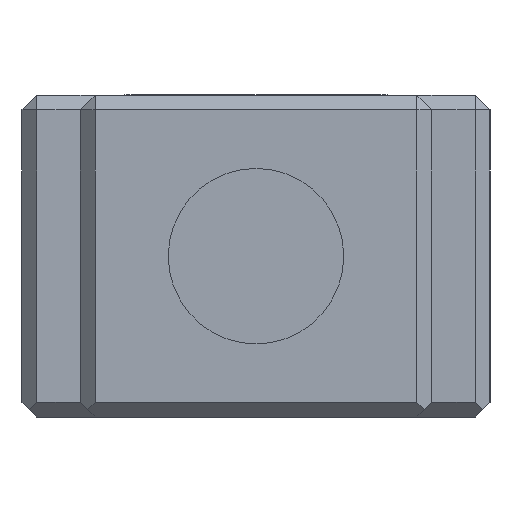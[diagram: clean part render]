
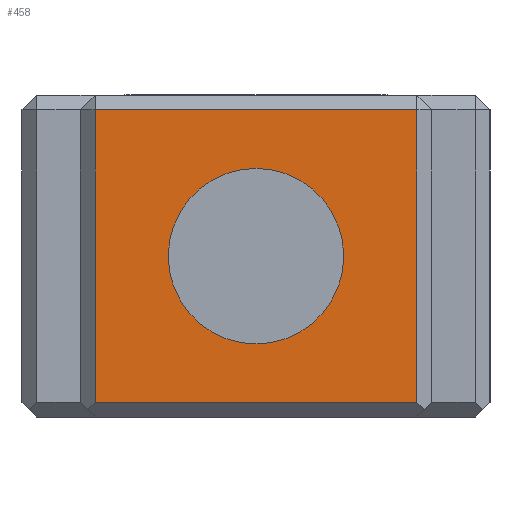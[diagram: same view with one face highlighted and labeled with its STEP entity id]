
A CAD part, left-side view. The second image highlights one B-rep face of the part: STEP entity #458.
In plain terms, the highlighted planar face has unit normal (-1, 0, 0).
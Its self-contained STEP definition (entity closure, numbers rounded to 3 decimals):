
#147 = CARTESIAN_POINT ( 'NONE',  ( -8., 0., 0. ) ) ;
#148 = DIRECTION ( 'NONE',  ( -1., 0., 0. ) ) ;
#149 = DIRECTION ( 'NONE',  ( 0., 0., 1. ) ) ;
#252 = EDGE_CURVE ( 'NONE', #1069, #1835, #806, .T. ) ;
#298 = EDGE_CURVE ( 'NONE', #1835, #1069, #889, .T. ) ;
#299 = EDGE_CURVE ( 'NONE', #1822, #1845, #885, .T. ) ;
#300 = EDGE_CURVE ( 'NONE', #1845, #1858, #892, .T. ) ;
#301 = EDGE_CURVE ( 'NONE', #1858, #1846, #894, .T. ) ;
#302 = EDGE_CURVE ( 'NONE', #1846, #1822, #896, .T. ) ;
#342 = AXIS2_PLACEMENT_3D ( 'NONE', #147, #148, #149 ) ;
#343 = AXIS2_PLACEMENT_3D ( 'NONE', #1225, #1226, #1227 ) ;
#373 = AXIS2_PLACEMENT_3D ( 'NONE', #1355, #1363, #1364 ) ;
#458 = ADVANCED_FACE ( 'NONE', ( #960, #963 ), #1361, .T. ) ;
#468 = ORIENTED_EDGE ( 'NONE', *, *, #252, .F. ) ;
#469 = ORIENTED_EDGE ( 'NONE', *, *, #298, .F. ) ;
#470 = ORIENTED_EDGE ( 'NONE', *, *, #299, .F. ) ;
#471 = ORIENTED_EDGE ( 'NONE', *, *, #300, .F. ) ;
#472 = ORIENTED_EDGE ( 'NONE', *, *, #301, .F. ) ;
#473 = ORIENTED_EDGE ( 'NONE', *, *, #302, .F. ) ;
#806 = CIRCLE ( 'NONE', #342, 1.5 ) ;
#885 = LINE ( 'NONE', #1224, #893 ) ;
#889 = CIRCLE ( 'NONE', #343, 1.5 ) ;
#892 = LINE ( 'NONE', #1228, #895 ) ;
#893 = VECTOR ( 'NONE', #1218, 1000. ) ;
#894 = LINE ( 'NONE', #1230, #897 ) ;
#895 = VECTOR ( 'NONE', #1229, 1000. ) ;
#896 = LINE ( 'NONE', #1232, #899 ) ;
#897 = VECTOR ( 'NONE', #1231, 1000. ) ;
#899 = VECTOR ( 'NONE', #1233, 1000. ) ;
#960 = FACE_OUTER_BOUND ( 'NONE', #1760, .T. ) ;
#963 = FACE_BOUND ( 'NONE', #1751, .T. ) ;
#1069 = VERTEX_POINT ( 'NONE', #1396 ) ;
#1218 = DIRECTION ( 'NONE',  ( 0., 0., 1. ) ) ;
#1224 = CARTESIAN_POINT ( 'NONE',  ( -8., 2.75, 0. ) ) ;
#1225 = CARTESIAN_POINT ( 'NONE',  ( -8., 0., 0. ) ) ;
#1226 = DIRECTION ( 'NONE',  ( -1., 0., 0. ) ) ;
#1227 = DIRECTION ( 'NONE',  ( 0., 0., 1. ) ) ;
#1228 = CARTESIAN_POINT ( 'NONE',  ( -8., -1.5, 2.5 ) ) ;
#1229 = DIRECTION ( 'NONE',  ( 0., -1., 0. ) ) ;
#1230 = CARTESIAN_POINT ( 'NONE',  ( -8., -2.75, 0. ) ) ;
#1231 = DIRECTION ( 'NONE',  ( 0., 0., -1. ) ) ;
#1232 = CARTESIAN_POINT ( 'NONE',  ( -8., -1.5, -2.5 ) ) ;
#1233 = DIRECTION ( 'NONE',  ( 0., 1., 0. ) ) ;
#1355 = CARTESIAN_POINT ( 'NONE',  ( -8., -3., 0. ) ) ;
#1361 = PLANE ( 'NONE',  #373 ) ;
#1363 = DIRECTION ( 'NONE',  ( -1., 0., 0. ) ) ;
#1364 = DIRECTION ( 'NONE',  ( 0., 0., 1. ) ) ;
#1396 = CARTESIAN_POINT ( 'NONE',  ( -8., 0., 1.5 ) ) ;
#1612 = CARTESIAN_POINT ( 'NONE',  ( -8., 2.75, -2.5 ) ) ;
#1625 = CARTESIAN_POINT ( 'NONE',  ( -8., 0., -1.5 ) ) ;
#1635 = CARTESIAN_POINT ( 'NONE',  ( -8., 2.75, 2.5 ) ) ;
#1636 = CARTESIAN_POINT ( 'NONE',  ( -8., -2.75, -2.5 ) ) ;
#1648 = CARTESIAN_POINT ( 'NONE',  ( -8., -2.75, 2.5 ) ) ;
#1751 = EDGE_LOOP ( 'NONE', ( #469, #468 ) ) ;
#1760 = EDGE_LOOP ( 'NONE', ( #473, #472, #471, #470 ) ) ;
#1822 = VERTEX_POINT ( 'NONE', #1612 ) ;
#1835 = VERTEX_POINT ( 'NONE', #1625 ) ;
#1845 = VERTEX_POINT ( 'NONE', #1635 ) ;
#1846 = VERTEX_POINT ( 'NONE', #1636 ) ;
#1858 = VERTEX_POINT ( 'NONE', #1648 ) ;
